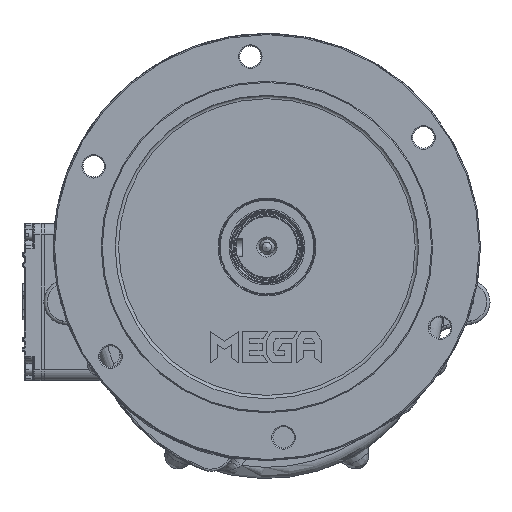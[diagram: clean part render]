
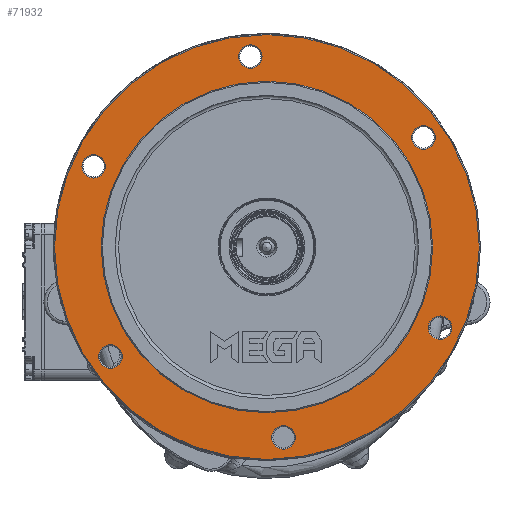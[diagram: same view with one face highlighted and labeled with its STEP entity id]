
A CAD part, front view. The second image highlights one B-rep face of the part: STEP entity #71932.
In plain terms, the highlighted planar face has unit normal (0, -1, 0).
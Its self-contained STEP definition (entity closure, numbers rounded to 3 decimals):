
#4630=FACE_BOUND('',#12932,.T.);
#4631=FACE_BOUND('',#12933,.T.);
#4632=FACE_BOUND('',#12934,.T.);
#4633=FACE_BOUND('',#12935,.T.);
#4634=FACE_BOUND('',#12936,.T.);
#4635=FACE_BOUND('',#12937,.T.);
#4636=FACE_BOUND('',#12938,.T.);
#5383=PLANE('',#77866);
#8601=FACE_OUTER_BOUND('',#12931,.T.);
#12931=EDGE_LOOP('',(#54267));
#12932=EDGE_LOOP('',(#54268));
#12933=EDGE_LOOP('',(#54269));
#12934=EDGE_LOOP('',(#54270));
#12935=EDGE_LOOP('',(#54271));
#12936=EDGE_LOOP('',(#54272));
#12937=EDGE_LOOP('',(#54273));
#12938=EDGE_LOOP('',(#54274));
#26051=CIRCLE('',#77710,147.5);
#26053=CIRCLE('',#77715,189.);
#26110=CIRCLE('',#77842,10.5);
#26113=CIRCLE('',#77847,10.5);
#26116=CIRCLE('',#77852,10.5);
#26119=CIRCLE('',#77857,10.5);
#26122=CIRCLE('',#77862,10.5);
#26125=CIRCLE('',#77867,10.5);
#30263=VERTEX_POINT('',#135804);
#30266=VERTEX_POINT('',#135823);
#30358=VERTEX_POINT('',#137618);
#30361=VERTEX_POINT('',#137628);
#30364=VERTEX_POINT('',#137638);
#30367=VERTEX_POINT('',#137648);
#30370=VERTEX_POINT('',#137658);
#30373=VERTEX_POINT('',#137668);
#38699=EDGE_CURVE('',#30263,#30263,#26051,.T.);
#38706=EDGE_CURVE('',#30266,#30266,#26053,.T.);
#38912=EDGE_CURVE('',#30358,#30358,#26110,.T.);
#38917=EDGE_CURVE('',#30361,#30361,#26113,.T.);
#38922=EDGE_CURVE('',#30364,#30364,#26116,.T.);
#38927=EDGE_CURVE('',#30367,#30367,#26119,.T.);
#38932=EDGE_CURVE('',#30370,#30370,#26122,.T.);
#38937=EDGE_CURVE('',#30373,#30373,#26125,.T.);
#54267=ORIENTED_EDGE('',*,*,#38706,.F.);
#54268=ORIENTED_EDGE('',*,*,#38932,.F.);
#54269=ORIENTED_EDGE('',*,*,#38922,.F.);
#54270=ORIENTED_EDGE('',*,*,#38912,.F.);
#54271=ORIENTED_EDGE('',*,*,#38699,.F.);
#54272=ORIENTED_EDGE('',*,*,#38917,.F.);
#54273=ORIENTED_EDGE('',*,*,#38927,.F.);
#54274=ORIENTED_EDGE('',*,*,#38937,.F.);
#71932=ADVANCED_FACE('',(#8601,#4630,#4631,#4632,#4633,#4634,#4635,#4636),
#5383,.T.);
#77710=AXIS2_PLACEMENT_3D('',#135806,#89266,#89267);
#77715=AXIS2_PLACEMENT_3D('',#135825,#89279,#89280);
#77842=AXIS2_PLACEMENT_3D('',#137619,#89621,#89622);
#77847=AXIS2_PLACEMENT_3D('',#137629,#89633,#89634);
#77852=AXIS2_PLACEMENT_3D('',#137639,#89645,#89646);
#77857=AXIS2_PLACEMENT_3D('',#137649,#89657,#89658);
#77862=AXIS2_PLACEMENT_3D('',#137659,#89669,#89670);
#77866=AXIS2_PLACEMENT_3D('',#137667,#89679,#89680);
#77867=AXIS2_PLACEMENT_3D('',#137669,#89681,#89682);
#89266=DIRECTION('center_axis',(0.,-1.,0.));
#89267=DIRECTION('ref_axis',(-1.,0.,0.));
#89279=DIRECTION('center_axis',(0.,1.,0.));
#89280=DIRECTION('ref_axis',(-1.,0.,0.));
#89621=DIRECTION('center_axis',(0.,-1.,0.));
#89622=DIRECTION('ref_axis',(-1.,0.,0.));
#89633=DIRECTION('center_axis',(0.,-1.,0.));
#89634=DIRECTION('ref_axis',(-0.5,0.,0.866));
#89645=DIRECTION('center_axis',(0.,-1.,0.));
#89646=DIRECTION('ref_axis',(0.5,0.,0.866));
#89657=DIRECTION('center_axis',(0.,-1.,0.));
#89658=DIRECTION('ref_axis',(1.,0.,0.));
#89669=DIRECTION('center_axis',(0.,-1.,0.));
#89670=DIRECTION('ref_axis',(0.5,0.,-0.866));
#89679=DIRECTION('center_axis',(0.,-1.,0.));
#89680=DIRECTION('ref_axis',(0.,0.,-1.));
#89681=DIRECTION('center_axis',(0.,-1.,0.));
#89682=DIRECTION('ref_axis',(-0.5,0.,-0.866));
#135804=CARTESIAN_POINT('',(147.728,-213.228,47.25));
#135806=CARTESIAN_POINT('Origin',(0.228,-213.228,47.25));
#135823=CARTESIAN_POINT('',(189.228,-213.228,47.25));
#135825=CARTESIAN_POINT('Origin',(0.228,-213.228,47.25));
#137618=CARTESIAN_POINT('',(-4.088,-213.228,216.603));
#137619=CARTESIAN_POINT('Origin',(-14.588,-213.228,216.603));
#137628=CARTESIAN_POINT('',(144.734,-213.228,135.665));
#137629=CARTESIAN_POINT('Origin',(139.484,-213.228,144.758));
#137638=CARTESIAN_POINT('',(149.051,-213.228,-33.688));
#137639=CARTESIAN_POINT('Origin',(154.301,-213.228,-24.595));
#137648=CARTESIAN_POINT('',(4.545,-213.228,-122.103));
#137649=CARTESIAN_POINT('Origin',(15.045,-213.228,-122.103));
#137658=CARTESIAN_POINT('',(-144.277,-213.228,-41.165));
#137659=CARTESIAN_POINT('Origin',(-139.027,-213.228,-50.258));
#137667=CARTESIAN_POINT('Origin',(0.228,-213.228,47.25));
#137668=CARTESIAN_POINT('',(-148.594,-213.228,128.188));
#137669=CARTESIAN_POINT('Origin',(-153.844,-213.228,119.095));
